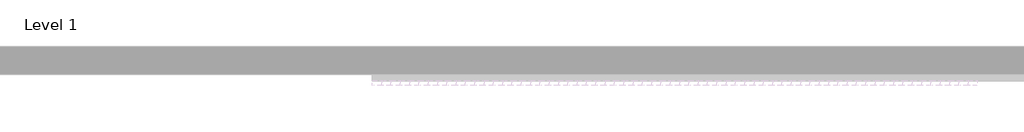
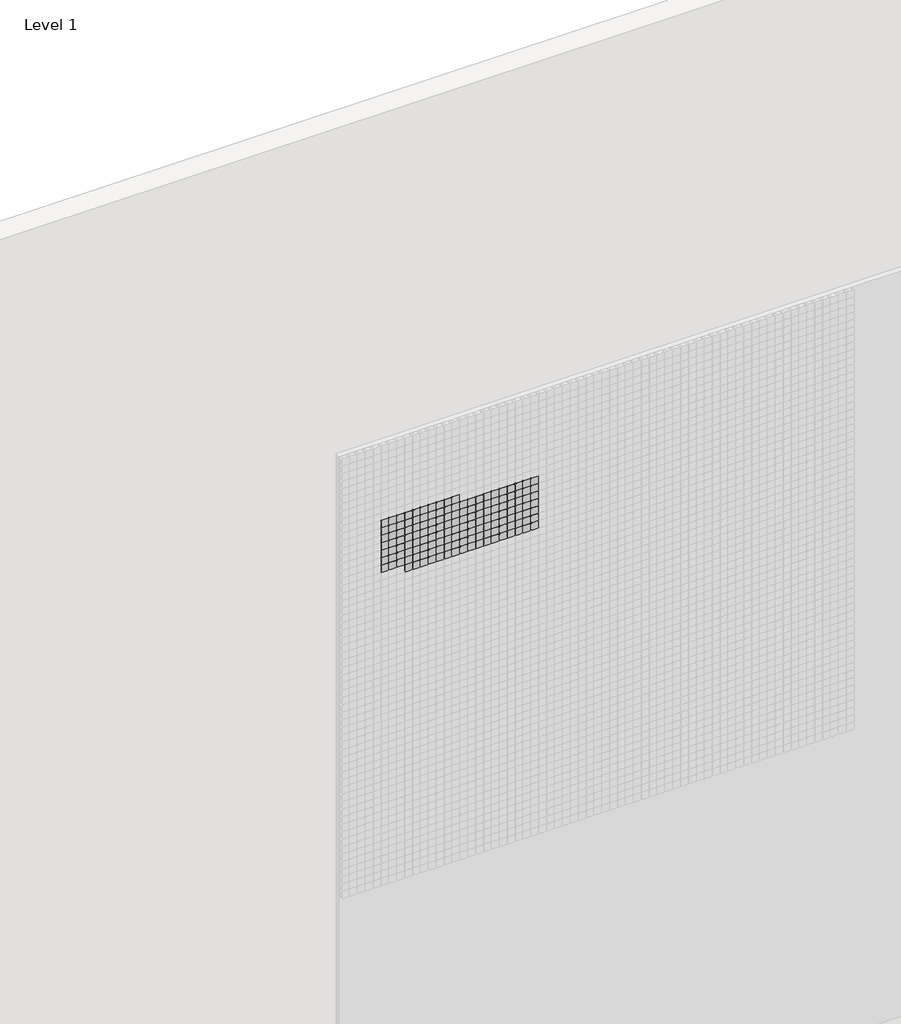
# One storey, part 9 of 71: 147 proxies.
"""IFC4 building model written with IfcOpenShell, lengths in millimetres."""

from ifc_helpers import new_model, si_unit, origin, place, context, project, spatial, transform, mapped, element, save
from components import generic_models_afde289c

model = new_model("IFC4")

# Units and contexts
model_context = context("Model", 3, world=origin())
ifc_project = project(units=[si_unit("LENGTHUNIT", "METRE", prefix="MILLI")], contexts=[model_context])

# Site, building, storey
site = spatial("IfcSite", under=ifc_project)
building = spatial("IfcBuilding", under=site)
storey = spatial("IfcBuildingStorey", under=building, Name="Level 1", Elevation=0.0)

# Proxies
placement = place(None, origin())
generic_models_shape = generic_models_afde289c(model_context)
element("IfcBuildingElementProxy", 1, Name="Pixel_M : Pixel_M", ObjectType="Pixel_M : Pixel_M", at=placement, inside=storey, context=model_context, shape_type="MappedRepresentation", body=[
    mapped(generic_models_shape, transform((5462.4280941, -75.0, 5466.3566215), x_axis=(1.0, 0.0, 0.0), y_axis=(0.0, 0.0, 1.0), z_axis=(0.0, -1.0, 0.0))),
])
element("IfcBuildingElementProxy", 2, Name="Pixel_M : Pixel_M", ObjectType="Pixel_M : Pixel_M", at=placement, inside=storey, context=model_context, shape_type="MappedRepresentation", body=[
    mapped(generic_models_shape, transform((5412.4280941, -75.0, 5466.3566215), x_axis=(1.0, 0.0, 0.0), y_axis=(0.0, 0.0, 1.0), z_axis=(0.0, -1.0, 0.0))),
])
element("IfcBuildingElementProxy", 3, Name="Pixel_M : Pixel_M", ObjectType="Pixel_M : Pixel_M", at=placement, inside=storey, context=model_context, shape_type="MappedRepresentation", body=[
    mapped(generic_models_shape, transform((5362.4280941, -75.0, 5466.3566215), x_axis=(1.0, 0.0, 0.0), y_axis=(0.0, 0.0, 1.0), z_axis=(0.0, -1.0, 0.0))),
])
element("IfcBuildingElementProxy", 4, Name="Pixel_M : Pixel_M", ObjectType="Pixel_M : Pixel_M", at=placement, inside=storey, context=model_context, shape_type="MappedRepresentation", body=[
    mapped(generic_models_shape, transform((5312.4280941, -75.0, 5466.3566215), x_axis=(1.0, 0.0, 0.0), y_axis=(0.0, 0.0, 1.0), z_axis=(0.0, -1.0, 0.0))),
])
element("IfcBuildingElementProxy", 5, Name="Pixel_M : Pixel_M", ObjectType="Pixel_M : Pixel_M", at=placement, inside=storey, context=model_context, shape_type="MappedRepresentation", body=[
    mapped(generic_models_shape, transform((5262.4280941, -75.0, 5466.3566215), x_axis=(1.0, 0.0, 0.0), y_axis=(0.0, 0.0, 1.0), z_axis=(0.0, -1.0, 0.0))),
])
element("IfcBuildingElementProxy", 6, Name="Pixel_M : Pixel_M", ObjectType="Pixel_M : Pixel_M", at=placement, inside=storey, context=model_context, shape_type="MappedRepresentation", body=[
    mapped(generic_models_shape, transform((5212.4280941, -75.0, 5466.3566215), x_axis=(1.0, 0.0, 0.0), y_axis=(0.0, 0.0, 1.0), z_axis=(0.0, -1.0, 0.0))),
])
element("IfcBuildingElementProxy", 7, Name="Pixel_M : Pixel_M", ObjectType="Pixel_M : Pixel_M", at=placement, inside=storey, context=model_context, shape_type="MappedRepresentation", body=[
    mapped(generic_models_shape, transform((5162.4280941, -75.0, 5466.3566215), x_axis=(1.0, 0.0, 0.0), y_axis=(0.0, 0.0, 1.0), z_axis=(0.0, -1.0, 0.0))),
])
element("IfcBuildingElementProxy", 8, Name="Pixel_M : Pixel_M", ObjectType="Pixel_M : Pixel_M", at=placement, inside=storey, context=model_context, shape_type="MappedRepresentation", body=[
    mapped(generic_models_shape, transform((5112.4280941, -75.0, 5466.3566215), x_axis=(1.0, 0.0, 0.0), y_axis=(0.0, 0.0, 1.0), z_axis=(0.0, -1.0, 0.0))),
])
element("IfcBuildingElementProxy", 9, Name="Pixel_M : Pixel_M", ObjectType="Pixel_M : Pixel_M", at=placement, inside=storey, context=model_context, shape_type="MappedRepresentation", body=[
    mapped(generic_models_shape, transform((5062.4280941, -75.0, 5466.3566215), x_axis=(1.0, 0.0, 0.0), y_axis=(0.0, 0.0, 1.0), z_axis=(0.0, -1.0, 0.0))),
])
element("IfcBuildingElementProxy", 10, Name="Pixel_M : Pixel_M", ObjectType="Pixel_M : Pixel_M", at=placement, inside=storey, context=model_context, shape_type="MappedRepresentation", body=[
    mapped(generic_models_shape, transform((5012.4280941, -75.0, 5466.3566215), x_axis=(1.0, 0.0, 0.0), y_axis=(0.0, 0.0, 1.0), z_axis=(0.0, -1.0, 0.0))),
])
element("IfcBuildingElementProxy", 11, Name="Pixel_M : Pixel_M", ObjectType="Pixel_M : Pixel_M", at=placement, inside=storey, context=model_context, shape_type="MappedRepresentation", body=[
    mapped(generic_models_shape, transform((5962.4280941, -75.0, 5416.3566215), x_axis=(1.0, 0.0, 0.0), y_axis=(0.0, 0.0, 1.0), z_axis=(0.0, -1.0, 0.0))),
])
element("IfcBuildingElementProxy", 12, Name="Pixel_M : Pixel_M", ObjectType="Pixel_M : Pixel_M", at=placement, inside=storey, context=model_context, shape_type="MappedRepresentation", body=[
    mapped(generic_models_shape, transform((5912.4280941, -75.0, 5416.3566215), x_axis=(1.0, 0.0, 0.0), y_axis=(0.0, 0.0, 1.0), z_axis=(0.0, -1.0, 0.0))),
])
element("IfcBuildingElementProxy", 13, Name="Pixel_M : Pixel_M", ObjectType="Pixel_M : Pixel_M", at=placement, inside=storey, context=model_context, shape_type="MappedRepresentation", body=[
    mapped(generic_models_shape, transform((5862.4280941, -75.0, 5416.3566215), x_axis=(1.0, 0.0, 0.0), y_axis=(0.0, 0.0, 1.0), z_axis=(0.0, -1.0, 0.0))),
])
element("IfcBuildingElementProxy", 14, Name="Pixel_M : Pixel_M", ObjectType="Pixel_M : Pixel_M", at=placement, inside=storey, context=model_context, shape_type="MappedRepresentation", body=[
    mapped(generic_models_shape, transform((5812.4280941, -75.0, 5416.3566215), x_axis=(1.0, 0.0, 0.0), y_axis=(0.0, 0.0, 1.0), z_axis=(0.0, -1.0, 0.0))),
])
element("IfcBuildingElementProxy", 15, Name="Pixel_M : Pixel_M", ObjectType="Pixel_M : Pixel_M", at=placement, inside=storey, context=model_context, shape_type="MappedRepresentation", body=[
    mapped(generic_models_shape, transform((5762.4280941, -75.0, 5416.3566215), x_axis=(1.0, 0.0, 0.0), y_axis=(0.0, 0.0, 1.0), z_axis=(0.0, -1.0, 0.0))),
])
element("IfcBuildingElementProxy", 16, Name="Pixel_M : Pixel_M", ObjectType="Pixel_M : Pixel_M", at=placement, inside=storey, context=model_context, shape_type="MappedRepresentation", body=[
    mapped(generic_models_shape, transform((5712.4280941, -75.0, 5416.3566215), x_axis=(1.0, 0.0, 0.0), y_axis=(0.0, 0.0, 1.0), z_axis=(0.0, -1.0, 0.0))),
])
element("IfcBuildingElementProxy", 17, Name="Pixel_M : Pixel_M", ObjectType="Pixel_M : Pixel_M", at=placement, inside=storey, context=model_context, shape_type="MappedRepresentation", body=[
    mapped(generic_models_shape, transform((5662.4280941, -75.0, 5416.3566215), x_axis=(1.0, 0.0, 0.0), y_axis=(0.0, 0.0, 1.0), z_axis=(0.0, -1.0, 0.0))),
])
element("IfcBuildingElementProxy", 18, Name="Pixel_M : Pixel_M", ObjectType="Pixel_M : Pixel_M", at=placement, inside=storey, context=model_context, shape_type="MappedRepresentation", body=[
    mapped(generic_models_shape, transform((5612.4280941, -75.0, 5416.3566215), x_axis=(1.0, 0.0, 0.0), y_axis=(0.0, 0.0, 1.0), z_axis=(0.0, -1.0, 0.0))),
])
element("IfcBuildingElementProxy", 19, Name="Pixel_M : Pixel_M", ObjectType="Pixel_M : Pixel_M", at=placement, inside=storey, context=model_context, shape_type="MappedRepresentation", body=[
    mapped(generic_models_shape, transform((5562.4280941, -75.0, 5416.3566215), x_axis=(1.0, 0.0, 0.0), y_axis=(0.0, 0.0, 1.0), z_axis=(0.0, -1.0, 0.0))),
])
element("IfcBuildingElementProxy", 20, Name="Pixel_M : Pixel_M", ObjectType="Pixel_M : Pixel_M", at=placement, inside=storey, context=model_context, shape_type="MappedRepresentation", body=[
    mapped(generic_models_shape, transform((5512.4280941, -75.0, 5416.3566215), x_axis=(1.0, 0.0, 0.0), y_axis=(0.0, 0.0, 1.0), z_axis=(0.0, -1.0, 0.0))),
])
element("IfcBuildingElementProxy", 21, Name="Pixel_M : Pixel_M", ObjectType="Pixel_M : Pixel_M", at=placement, inside=storey, context=model_context, shape_type="MappedRepresentation", body=[
    mapped(generic_models_shape, transform((5462.4280941, -75.0, 5416.3566215), x_axis=(1.0, 0.0, 0.0), y_axis=(0.0, 0.0, 1.0), z_axis=(0.0, -1.0, 0.0))),
])
element("IfcBuildingElementProxy", 22, Name="Pixel_M : Pixel_M", ObjectType="Pixel_M : Pixel_M", at=placement, inside=storey, context=model_context, shape_type="MappedRepresentation", body=[
    mapped(generic_models_shape, transform((5412.4280941, -75.0, 5416.3566215), x_axis=(1.0, 0.0, 0.0), y_axis=(0.0, 0.0, 1.0), z_axis=(0.0, -1.0, 0.0))),
])
element("IfcBuildingElementProxy", 23, Name="Pixel_M : Pixel_M", ObjectType="Pixel_M : Pixel_M", at=placement, inside=storey, context=model_context, shape_type="MappedRepresentation", body=[
    mapped(generic_models_shape, transform((5362.4280941, -75.0, 5416.3566215), x_axis=(1.0, 0.0, 0.0), y_axis=(0.0, 0.0, 1.0), z_axis=(0.0, -1.0, 0.0))),
])
element("IfcBuildingElementProxy", 24, Name="Pixel_M : Pixel_M", ObjectType="Pixel_M : Pixel_M", at=placement, inside=storey, context=model_context, shape_type="MappedRepresentation", body=[
    mapped(generic_models_shape, transform((5312.4280941, -75.0, 5416.3566215), x_axis=(1.0, 0.0, 0.0), y_axis=(0.0, 0.0, 1.0), z_axis=(0.0, -1.0, 0.0))),
])
element("IfcBuildingElementProxy", 25, Name="Pixel_M : Pixel_M", ObjectType="Pixel_M : Pixel_M", at=placement, inside=storey, context=model_context, shape_type="MappedRepresentation", body=[
    mapped(generic_models_shape, transform((5262.4280941, -75.0, 5416.3566215), x_axis=(1.0, 0.0, 0.0), y_axis=(0.0, 0.0, 1.0), z_axis=(0.0, -1.0, 0.0))),
])
element("IfcBuildingElementProxy", 26, Name="Pixel_M : Pixel_M", ObjectType="Pixel_M : Pixel_M", at=placement, inside=storey, context=model_context, shape_type="MappedRepresentation", body=[
    mapped(generic_models_shape, transform((5212.4280941, -75.0, 5416.3566215), x_axis=(1.0, 0.0, 0.0), y_axis=(0.0, 0.0, 1.0), z_axis=(0.0, -1.0, 0.0))),
])
element("IfcBuildingElementProxy", 27, Name="Pixel_M : Pixel_M", ObjectType="Pixel_M : Pixel_M", at=placement, inside=storey, context=model_context, shape_type="MappedRepresentation", body=[
    mapped(generic_models_shape, transform((5162.4280941, -75.0, 5416.3566215), x_axis=(1.0, 0.0, 0.0), y_axis=(0.0, 0.0, 1.0), z_axis=(0.0, -1.0, 0.0))),
])
element("IfcBuildingElementProxy", 28, Name="Pixel_M : Pixel_M", ObjectType="Pixel_M : Pixel_M", at=placement, inside=storey, context=model_context, shape_type="MappedRepresentation", body=[
    mapped(generic_models_shape, transform((5112.4280941, -75.0, 5416.3566215), x_axis=(1.0, 0.0, 0.0), y_axis=(0.0, 0.0, 1.0), z_axis=(0.0, -1.0, 0.0))),
])
element("IfcBuildingElementProxy", 29, Name="Pixel_M : Pixel_M", ObjectType="Pixel_M : Pixel_M", at=placement, inside=storey, context=model_context, shape_type="MappedRepresentation", body=[
    mapped(generic_models_shape, transform((5062.4280941, -75.0, 5416.3566215), x_axis=(1.0, 0.0, 0.0), y_axis=(0.0, 0.0, 1.0), z_axis=(0.0, -1.0, 0.0))),
])
element("IfcBuildingElementProxy", 30, Name="Pixel_M : Pixel_M", ObjectType="Pixel_M : Pixel_M", at=placement, inside=storey, context=model_context, shape_type="MappedRepresentation", body=[
    mapped(generic_models_shape, transform((5012.4280941, -75.0, 5416.3566215), x_axis=(1.0, 0.0, 0.0), y_axis=(0.0, 0.0, 1.0), z_axis=(0.0, -1.0, 0.0))),
])
element("IfcBuildingElementProxy", 31, Name="Pixel_M : Pixel_M", ObjectType="Pixel_M : Pixel_M", at=placement, inside=storey, context=model_context, shape_type="MappedRepresentation", body=[
    mapped(generic_models_shape, transform((5962.4280941, -75.0, 5366.3566215), x_axis=(1.0, 0.0, 0.0), y_axis=(0.0, 0.0, 1.0), z_axis=(0.0, -1.0, 0.0))),
])
element("IfcBuildingElementProxy", 32, Name="Pixel_M : Pixel_M", ObjectType="Pixel_M : Pixel_M", at=placement, inside=storey, context=model_context, shape_type="MappedRepresentation", body=[
    mapped(generic_models_shape, transform((5912.4280941, -75.0, 5366.3566215), x_axis=(1.0, 0.0, 0.0), y_axis=(0.0, 0.0, 1.0), z_axis=(0.0, -1.0, 0.0))),
])
element("IfcBuildingElementProxy", 33, Name="Pixel_M : Pixel_M", ObjectType="Pixel_M : Pixel_M", at=placement, inside=storey, context=model_context, shape_type="MappedRepresentation", body=[
    mapped(generic_models_shape, transform((5862.4280941, -75.0, 5366.3566215), x_axis=(1.0, 0.0, 0.0), y_axis=(0.0, 0.0, 1.0), z_axis=(0.0, -1.0, 0.0))),
])
element("IfcBuildingElementProxy", 34, Name="Pixel_M : Pixel_M", ObjectType="Pixel_M : Pixel_M", at=placement, inside=storey, context=model_context, shape_type="MappedRepresentation", body=[
    mapped(generic_models_shape, transform((5812.4280941, -75.0, 5366.3566215), x_axis=(1.0, 0.0, 0.0), y_axis=(0.0, 0.0, 1.0), z_axis=(0.0, -1.0, 0.0))),
])
element("IfcBuildingElementProxy", 35, Name="Pixel_M : Pixel_M", ObjectType="Pixel_M : Pixel_M", at=placement, inside=storey, context=model_context, shape_type="MappedRepresentation", body=[
    mapped(generic_models_shape, transform((5762.4280941, -75.0, 5366.3566215), x_axis=(1.0, 0.0, 0.0), y_axis=(0.0, 0.0, 1.0), z_axis=(0.0, -1.0, 0.0))),
])
element("IfcBuildingElementProxy", 36, Name="Pixel_M : Pixel_M", ObjectType="Pixel_M : Pixel_M", at=placement, inside=storey, context=model_context, shape_type="MappedRepresentation", body=[
    mapped(generic_models_shape, transform((5712.4280941, -75.0, 5366.3566215), x_axis=(1.0, 0.0, 0.0), y_axis=(0.0, 0.0, 1.0), z_axis=(0.0, -1.0, 0.0))),
])
element("IfcBuildingElementProxy", 37, Name="Pixel_M : Pixel_M", ObjectType="Pixel_M : Pixel_M", at=placement, inside=storey, context=model_context, shape_type="MappedRepresentation", body=[
    mapped(generic_models_shape, transform((5662.4280941, -75.0, 5366.3566215), x_axis=(1.0, 0.0, 0.0), y_axis=(0.0, 0.0, 1.0), z_axis=(0.0, -1.0, 0.0))),
])
element("IfcBuildingElementProxy", 38, Name="Pixel_M : Pixel_M", ObjectType="Pixel_M : Pixel_M", at=placement, inside=storey, context=model_context, shape_type="MappedRepresentation", body=[
    mapped(generic_models_shape, transform((5612.4280941, -75.0, 5366.3566215), x_axis=(1.0, 0.0, 0.0), y_axis=(0.0, 0.0, 1.0), z_axis=(0.0, -1.0, 0.0))),
])
element("IfcBuildingElementProxy", 39, Name="Pixel_M : Pixel_M", ObjectType="Pixel_M : Pixel_M", at=placement, inside=storey, context=model_context, shape_type="MappedRepresentation", body=[
    mapped(generic_models_shape, transform((5562.4280941, -75.0, 5366.3566215), x_axis=(1.0, 0.0, 0.0), y_axis=(0.0, 0.0, 1.0), z_axis=(0.0, -1.0, 0.0))),
])
element("IfcBuildingElementProxy", 40, Name="Pixel_M : Pixel_M", ObjectType="Pixel_M : Pixel_M", at=placement, inside=storey, context=model_context, shape_type="MappedRepresentation", body=[
    mapped(generic_models_shape, transform((5512.4280941, -75.0, 5366.3566215), x_axis=(1.0, 0.0, 0.0), y_axis=(0.0, 0.0, 1.0), z_axis=(0.0, -1.0, 0.0))),
])
element("IfcBuildingElementProxy", 41, Name="Pixel_M : Pixel_M", ObjectType="Pixel_M : Pixel_M", at=placement, inside=storey, context=model_context, shape_type="MappedRepresentation", body=[
    mapped(generic_models_shape, transform((5462.4280941, -75.0, 5366.3566215), x_axis=(1.0, 0.0, 0.0), y_axis=(0.0, 0.0, 1.0), z_axis=(0.0, -1.0, 0.0))),
])
element("IfcBuildingElementProxy", 42, Name="Pixel_M : Pixel_M", ObjectType="Pixel_M : Pixel_M", at=placement, inside=storey, context=model_context, shape_type="MappedRepresentation", body=[
    mapped(generic_models_shape, transform((5412.4280941, -75.0, 5366.3566215), x_axis=(1.0, 0.0, 0.0), y_axis=(0.0, 0.0, 1.0), z_axis=(0.0, -1.0, 0.0))),
])
element("IfcBuildingElementProxy", 43, Name="Pixel_M : Pixel_M", ObjectType="Pixel_M : Pixel_M", at=placement, inside=storey, context=model_context, shape_type="MappedRepresentation", body=[
    mapped(generic_models_shape, transform((5362.4280941, -75.0, 5366.3566215), x_axis=(1.0, 0.0, 0.0), y_axis=(0.0, 0.0, 1.0), z_axis=(0.0, -1.0, 0.0))),
])
element("IfcBuildingElementProxy", 44, Name="Pixel_M : Pixel_M", ObjectType="Pixel_M : Pixel_M", at=placement, inside=storey, context=model_context, shape_type="MappedRepresentation", body=[
    mapped(generic_models_shape, transform((5312.4280941, -75.0, 5366.3566215), x_axis=(1.0, 0.0, 0.0), y_axis=(0.0, 0.0, 1.0), z_axis=(0.0, -1.0, 0.0))),
])
element("IfcBuildingElementProxy", 45, Name="Pixel_M : Pixel_M", ObjectType="Pixel_M : Pixel_M", at=placement, inside=storey, context=model_context, shape_type="MappedRepresentation", body=[
    mapped(generic_models_shape, transform((5262.4280941, -75.0, 5366.3566215), x_axis=(1.0, 0.0, 0.0), y_axis=(0.0, 0.0, 1.0), z_axis=(0.0, -1.0, 0.0))),
])
element("IfcBuildingElementProxy", 46, Name="Pixel_M : Pixel_M", ObjectType="Pixel_M : Pixel_M", at=placement, inside=storey, context=model_context, shape_type="MappedRepresentation", body=[
    mapped(generic_models_shape, transform((5212.4280941, -75.0, 5366.3566215), x_axis=(1.0, 0.0, 0.0), y_axis=(0.0, 0.0, 1.0), z_axis=(0.0, -1.0, 0.0))),
])
element("IfcBuildingElementProxy", 47, Name="Pixel_M : Pixel_M", ObjectType="Pixel_M : Pixel_M", at=placement, inside=storey, context=model_context, shape_type="MappedRepresentation", body=[
    mapped(generic_models_shape, transform((5162.4280941, -75.0, 5366.3566215), x_axis=(1.0, 0.0, 0.0), y_axis=(0.0, 0.0, 1.0), z_axis=(0.0, -1.0, 0.0))),
])
element("IfcBuildingElementProxy", 48, Name="Pixel_M : Pixel_M", ObjectType="Pixel_M : Pixel_M", at=placement, inside=storey, context=model_context, shape_type="MappedRepresentation", body=[
    mapped(generic_models_shape, transform((5112.4280941, -75.0, 5366.3566215), x_axis=(1.0, 0.0, 0.0), y_axis=(0.0, 0.0, 1.0), z_axis=(0.0, -1.0, 0.0))),
])
element("IfcBuildingElementProxy", 49, Name="Pixel_M : Pixel_M", ObjectType="Pixel_M : Pixel_M", at=placement, inside=storey, context=model_context, shape_type="MappedRepresentation", body=[
    mapped(generic_models_shape, transform((5062.4280941, -75.0, 5366.3566215), x_axis=(1.0, 0.0, 0.0), y_axis=(0.0, 0.0, 1.0), z_axis=(0.0, -1.0, 0.0))),
])
element("IfcBuildingElementProxy", 50, Name="Pixel_M : Pixel_M", ObjectType="Pixel_M : Pixel_M", at=placement, inside=storey, context=model_context, shape_type="MappedRepresentation", body=[
    mapped(generic_models_shape, transform((5012.4280941, -75.0, 5366.3566215), x_axis=(1.0, 0.0, 0.0), y_axis=(0.0, 0.0, 1.0), z_axis=(0.0, -1.0, 0.0))),
])
element("IfcBuildingElementProxy", 51, Name="Pixel_M : Pixel_M", ObjectType="Pixel_M : Pixel_M", at=placement, inside=storey, context=model_context, shape_type="MappedRepresentation", body=[
    mapped(generic_models_shape, transform((5962.4280941, -75.0, 5316.3566215), x_axis=(1.0, 0.0, 0.0), y_axis=(0.0, 0.0, 1.0), z_axis=(0.0, -1.0, 0.0))),
])
element("IfcBuildingElementProxy", 52, Name="Pixel_M : Pixel_M", ObjectType="Pixel_M : Pixel_M", at=placement, inside=storey, context=model_context, shape_type="MappedRepresentation", body=[
    mapped(generic_models_shape, transform((5912.4280941, -75.0, 5316.3566215), x_axis=(1.0, 0.0, 0.0), y_axis=(0.0, 0.0, 1.0), z_axis=(0.0, -1.0, 0.0))),
])
element("IfcBuildingElementProxy", 53, Name="Pixel_M : Pixel_M", ObjectType="Pixel_M : Pixel_M", at=placement, inside=storey, context=model_context, shape_type="MappedRepresentation", body=[
    mapped(generic_models_shape, transform((5862.4280941, -75.0, 5316.3566215), x_axis=(1.0, 0.0, 0.0), y_axis=(0.0, 0.0, 1.0), z_axis=(0.0, -1.0, 0.0))),
])
element("IfcBuildingElementProxy", 54, Name="Pixel_M : Pixel_M", ObjectType="Pixel_M : Pixel_M", at=placement, inside=storey, context=model_context, shape_type="MappedRepresentation", body=[
    mapped(generic_models_shape, transform((5812.4280941, -75.0, 5316.3566215), x_axis=(1.0, 0.0, 0.0), y_axis=(0.0, 0.0, 1.0), z_axis=(0.0, -1.0, 0.0))),
])
element("IfcBuildingElementProxy", 55, Name="Pixel_M : Pixel_M", ObjectType="Pixel_M : Pixel_M", at=placement, inside=storey, context=model_context, shape_type="MappedRepresentation", body=[
    mapped(generic_models_shape, transform((5762.4280941, -75.0, 5316.3566215), x_axis=(1.0, 0.0, 0.0), y_axis=(0.0, 0.0, 1.0), z_axis=(0.0, -1.0, 0.0))),
])
element("IfcBuildingElementProxy", 56, Name="Pixel_M : Pixel_M", ObjectType="Pixel_M : Pixel_M", at=placement, inside=storey, context=model_context, shape_type="MappedRepresentation", body=[
    mapped(generic_models_shape, transform((5712.4280941, -75.0, 5316.3566215), x_axis=(1.0, 0.0, 0.0), y_axis=(0.0, 0.0, 1.0), z_axis=(0.0, -1.0, 0.0))),
])
element("IfcBuildingElementProxy", 57, Name="Pixel_M : Pixel_M", ObjectType="Pixel_M : Pixel_M", at=placement, inside=storey, context=model_context, shape_type="MappedRepresentation", body=[
    mapped(generic_models_shape, transform((5662.4280941, -75.0, 5316.3566215), x_axis=(1.0, 0.0, 0.0), y_axis=(0.0, 0.0, 1.0), z_axis=(0.0, -1.0, 0.0))),
])
element("IfcBuildingElementProxy", 58, Name="Pixel_M : Pixel_M", ObjectType="Pixel_M : Pixel_M", at=placement, inside=storey, context=model_context, shape_type="MappedRepresentation", body=[
    mapped(generic_models_shape, transform((5612.4280941, -75.0, 5316.3566215), x_axis=(1.0, 0.0, 0.0), y_axis=(0.0, 0.0, 1.0), z_axis=(0.0, -1.0, 0.0))),
])
element("IfcBuildingElementProxy", 59, Name="Pixel_M : Pixel_M", ObjectType="Pixel_M : Pixel_M", at=placement, inside=storey, context=model_context, shape_type="MappedRepresentation", body=[
    mapped(generic_models_shape, transform((5562.4280941, -75.0, 5316.3566215), x_axis=(1.0, 0.0, 0.0), y_axis=(0.0, 0.0, 1.0), z_axis=(0.0, -1.0, 0.0))),
])
element("IfcBuildingElementProxy", 60, Name="Pixel_M : Pixel_M", ObjectType="Pixel_M : Pixel_M", at=placement, inside=storey, context=model_context, shape_type="MappedRepresentation", body=[
    mapped(generic_models_shape, transform((5512.4280941, -75.0, 5316.3566215), x_axis=(1.0, 0.0, 0.0), y_axis=(0.0, 0.0, 1.0), z_axis=(0.0, -1.0, 0.0))),
])
element("IfcBuildingElementProxy", 61, Name="Pixel_M : Pixel_M", ObjectType="Pixel_M : Pixel_M", at=placement, inside=storey, context=model_context, shape_type="MappedRepresentation", body=[
    mapped(generic_models_shape, transform((5462.4280941, -75.0, 5316.3566215), x_axis=(1.0, 0.0, 0.0), y_axis=(0.0, 0.0, 1.0), z_axis=(0.0, -1.0, 0.0))),
])
element("IfcBuildingElementProxy", 62, Name="Pixel_M : Pixel_M", ObjectType="Pixel_M : Pixel_M", at=placement, inside=storey, context=model_context, shape_type="MappedRepresentation", body=[
    mapped(generic_models_shape, transform((5412.4280941, -75.0, 5316.3566215), x_axis=(1.0, 0.0, 0.0), y_axis=(0.0, 0.0, 1.0), z_axis=(0.0, -1.0, 0.0))),
])
element("IfcBuildingElementProxy", 63, Name="Pixel_M : Pixel_M", ObjectType="Pixel_M : Pixel_M", at=placement, inside=storey, context=model_context, shape_type="MappedRepresentation", body=[
    mapped(generic_models_shape, transform((5362.4280941, -75.0, 5316.3566215), x_axis=(1.0, 0.0, 0.0), y_axis=(0.0, 0.0, 1.0), z_axis=(0.0, -1.0, 0.0))),
])
element("IfcBuildingElementProxy", 64, Name="Pixel_M : Pixel_M", ObjectType="Pixel_M : Pixel_M", at=placement, inside=storey, context=model_context, shape_type="MappedRepresentation", body=[
    mapped(generic_models_shape, transform((5312.4280941, -75.0, 5316.3566215), x_axis=(1.0, 0.0, 0.0), y_axis=(0.0, 0.0, 1.0), z_axis=(0.0, -1.0, 0.0))),
])
element("IfcBuildingElementProxy", 65, Name="Pixel_M : Pixel_M", ObjectType="Pixel_M : Pixel_M", at=placement, inside=storey, context=model_context, shape_type="MappedRepresentation", body=[
    mapped(generic_models_shape, transform((5262.4280941, -75.0, 5316.3566215), x_axis=(1.0, 0.0, 0.0), y_axis=(0.0, 0.0, 1.0), z_axis=(0.0, -1.0, 0.0))),
])
element("IfcBuildingElementProxy", 66, Name="Pixel_M : Pixel_M", ObjectType="Pixel_M : Pixel_M", at=placement, inside=storey, context=model_context, shape_type="MappedRepresentation", body=[
    mapped(generic_models_shape, transform((5212.4280941, -75.0, 5316.3566215), x_axis=(1.0, 0.0, 0.0), y_axis=(0.0, 0.0, 1.0), z_axis=(0.0, -1.0, 0.0))),
])
element("IfcBuildingElementProxy", 67, Name="Pixel_M : Pixel_M", ObjectType="Pixel_M : Pixel_M", at=placement, inside=storey, context=model_context, shape_type="MappedRepresentation", body=[
    mapped(generic_models_shape, transform((5162.4280941, -75.0, 5316.3566215), x_axis=(1.0, 0.0, 0.0), y_axis=(0.0, 0.0, 1.0), z_axis=(0.0, -1.0, 0.0))),
])
element("IfcBuildingElementProxy", 68, Name="Pixel_M : Pixel_M", ObjectType="Pixel_M : Pixel_M", at=placement, inside=storey, context=model_context, shape_type="MappedRepresentation", body=[
    mapped(generic_models_shape, transform((5112.4280941, -75.0, 5316.3566215), x_axis=(1.0, 0.0, 0.0), y_axis=(0.0, 0.0, 1.0), z_axis=(0.0, -1.0, 0.0))),
])
element("IfcBuildingElementProxy", 69, Name="Pixel_M : Pixel_M", ObjectType="Pixel_M : Pixel_M", at=placement, inside=storey, context=model_context, shape_type="MappedRepresentation", body=[
    mapped(generic_models_shape, transform((5062.4280941, -75.0, 5316.3566215), x_axis=(1.0, 0.0, 0.0), y_axis=(0.0, 0.0, 1.0), z_axis=(0.0, -1.0, 0.0))),
])
element("IfcBuildingElementProxy", 70, Name="Pixel_M : Pixel_M", ObjectType="Pixel_M : Pixel_M", at=placement, inside=storey, context=model_context, shape_type="MappedRepresentation", body=[
    mapped(generic_models_shape, transform((5012.4280941, -75.0, 5316.3566215), x_axis=(1.0, 0.0, 0.0), y_axis=(0.0, 0.0, 1.0), z_axis=(0.0, -1.0, 0.0))),
])
element("IfcBuildingElementProxy", 71, Name="Pixel_M : Pixel_M", ObjectType="Pixel_M : Pixel_M", at=placement, inside=storey, context=model_context, shape_type="MappedRepresentation", body=[
    mapped(generic_models_shape, transform((5962.4280941, -75.0, 5266.3566215), x_axis=(1.0, 0.0, 0.0), y_axis=(0.0, 0.0, 1.0), z_axis=(0.0, -1.0, 0.0))),
])
element("IfcBuildingElementProxy", 72, Name="Pixel_M : Pixel_M", ObjectType="Pixel_M : Pixel_M", at=placement, inside=storey, context=model_context, shape_type="MappedRepresentation", body=[
    mapped(generic_models_shape, transform((5912.4280941, -75.0, 5266.3566215), x_axis=(1.0, 0.0, 0.0), y_axis=(0.0, 0.0, 1.0), z_axis=(0.0, -1.0, 0.0))),
])
element("IfcBuildingElementProxy", 73, Name="Pixel_M : Pixel_M", ObjectType="Pixel_M : Pixel_M", at=placement, inside=storey, context=model_context, shape_type="MappedRepresentation", body=[
    mapped(generic_models_shape, transform((5862.4280941, -75.0, 5266.3566215), x_axis=(1.0, 0.0, 0.0), y_axis=(0.0, 0.0, 1.0), z_axis=(0.0, -1.0, 0.0))),
])
element("IfcBuildingElementProxy", 74, Name="Pixel_M : Pixel_M", ObjectType="Pixel_M : Pixel_M", at=placement, inside=storey, context=model_context, shape_type="MappedRepresentation", body=[
    mapped(generic_models_shape, transform((5812.4280941, -75.0, 5266.3566215), x_axis=(1.0, 0.0, 0.0), y_axis=(0.0, 0.0, 1.0), z_axis=(0.0, -1.0, 0.0))),
])
element("IfcBuildingElementProxy", 75, Name="Pixel_M : Pixel_M", ObjectType="Pixel_M : Pixel_M", at=placement, inside=storey, context=model_context, shape_type="MappedRepresentation", body=[
    mapped(generic_models_shape, transform((5762.4280941, -75.0, 5266.3566215), x_axis=(1.0, 0.0, 0.0), y_axis=(0.0, 0.0, 1.0), z_axis=(0.0, -1.0, 0.0))),
])
element("IfcBuildingElementProxy", 76, Name="Pixel_M : Pixel_M", ObjectType="Pixel_M : Pixel_M", at=placement, inside=storey, context=model_context, shape_type="MappedRepresentation", body=[
    mapped(generic_models_shape, transform((5712.4280941, -75.0, 5266.3566215), x_axis=(1.0, 0.0, 0.0), y_axis=(0.0, 0.0, 1.0), z_axis=(0.0, -1.0, 0.0))),
])
element("IfcBuildingElementProxy", 77, Name="Pixel_M : Pixel_M", ObjectType="Pixel_M : Pixel_M", at=placement, inside=storey, context=model_context, shape_type="MappedRepresentation", body=[
    mapped(generic_models_shape, transform((5662.4280941, -75.0, 5266.3566215), x_axis=(1.0, 0.0, 0.0), y_axis=(0.0, 0.0, 1.0), z_axis=(0.0, -1.0, 0.0))),
])
element("IfcBuildingElementProxy", 78, Name="Pixel_M : Pixel_M", ObjectType="Pixel_M : Pixel_M", at=placement, inside=storey, context=model_context, shape_type="MappedRepresentation", body=[
    mapped(generic_models_shape, transform((5612.4280941, -75.0, 5266.3566215), x_axis=(1.0, 0.0, 0.0), y_axis=(0.0, 0.0, 1.0), z_axis=(0.0, -1.0, 0.0))),
])
element("IfcBuildingElementProxy", 79, Name="Pixel_M : Pixel_M", ObjectType="Pixel_M : Pixel_M", at=placement, inside=storey, context=model_context, shape_type="MappedRepresentation", body=[
    mapped(generic_models_shape, transform((5562.4280941, -75.0, 5266.3566215), x_axis=(1.0, 0.0, 0.0), y_axis=(0.0, 0.0, 1.0), z_axis=(0.0, -1.0, 0.0))),
])
element("IfcBuildingElementProxy", 80, Name="Pixel_M : Pixel_M", ObjectType="Pixel_M : Pixel_M", at=placement, inside=storey, context=model_context, shape_type="MappedRepresentation", body=[
    mapped(generic_models_shape, transform((5512.4280941, -75.0, 5266.3566215), x_axis=(1.0, 0.0, 0.0), y_axis=(0.0, 0.0, 1.0), z_axis=(0.0, -1.0, 0.0))),
])
element("IfcBuildingElementProxy", 81, Name="Pixel_M : Pixel_M", ObjectType="Pixel_M : Pixel_M", at=placement, inside=storey, context=model_context, shape_type="MappedRepresentation", body=[
    mapped(generic_models_shape, transform((5462.4280941, -75.0, 5266.3566215), x_axis=(1.0, 0.0, 0.0), y_axis=(0.0, 0.0, 1.0), z_axis=(0.0, -1.0, 0.0))),
])
element("IfcBuildingElementProxy", 82, Name="Pixel_M : Pixel_M", ObjectType="Pixel_M : Pixel_M", at=placement, inside=storey, context=model_context, shape_type="MappedRepresentation", body=[
    mapped(generic_models_shape, transform((5412.4280941, -75.0, 5266.3566215), x_axis=(1.0, 0.0, 0.0), y_axis=(0.0, 0.0, 1.0), z_axis=(0.0, -1.0, 0.0))),
])
element("IfcBuildingElementProxy", 83, Name="Pixel_M : Pixel_M", ObjectType="Pixel_M : Pixel_M", at=placement, inside=storey, context=model_context, shape_type="MappedRepresentation", body=[
    mapped(generic_models_shape, transform((5362.4280941, -75.0, 5266.3566215), x_axis=(1.0, 0.0, 0.0), y_axis=(0.0, 0.0, 1.0), z_axis=(0.0, -1.0, 0.0))),
])
element("IfcBuildingElementProxy", 84, Name="Pixel_M : Pixel_M", ObjectType="Pixel_M : Pixel_M", at=placement, inside=storey, context=model_context, shape_type="MappedRepresentation", body=[
    mapped(generic_models_shape, transform((5312.4280941, -75.0, 5266.3566215), x_axis=(1.0, 0.0, 0.0), y_axis=(0.0, 0.0, 1.0), z_axis=(0.0, -1.0, 0.0))),
])
element("IfcBuildingElementProxy", 85, Name="Pixel_M : Pixel_M", ObjectType="Pixel_M : Pixel_M", at=placement, inside=storey, context=model_context, shape_type="MappedRepresentation", body=[
    mapped(generic_models_shape, transform((5262.4280941, -75.0, 5266.3566215), x_axis=(1.0, 0.0, 0.0), y_axis=(0.0, 0.0, 1.0), z_axis=(0.0, -1.0, 0.0))),
])
element("IfcBuildingElementProxy", 86, Name="Pixel_M : Pixel_M", ObjectType="Pixel_M : Pixel_M", at=placement, inside=storey, context=model_context, shape_type="MappedRepresentation", body=[
    mapped(generic_models_shape, transform((5212.4280941, -75.0, 5266.3566215), x_axis=(1.0, 0.0, 0.0), y_axis=(0.0, 0.0, 1.0), z_axis=(0.0, -1.0, 0.0))),
])
element("IfcBuildingElementProxy", 87, Name="Pixel_M : Pixel_M", ObjectType="Pixel_M : Pixel_M", at=placement, inside=storey, context=model_context, shape_type="MappedRepresentation", body=[
    mapped(generic_models_shape, transform((5162.4280941, -75.0, 5266.3566215), x_axis=(1.0, 0.0, 0.0), y_axis=(0.0, 0.0, 1.0), z_axis=(0.0, -1.0, 0.0))),
])
element("IfcBuildingElementProxy", 88, Name="Pixel_M : Pixel_M", ObjectType="Pixel_M : Pixel_M", at=placement, inside=storey, context=model_context, shape_type="MappedRepresentation", body=[
    mapped(generic_models_shape, transform((5112.4280941, -75.0, 5266.3566215), x_axis=(1.0, 0.0, 0.0), y_axis=(0.0, 0.0, 1.0), z_axis=(0.0, -1.0, 0.0))),
])
element("IfcBuildingElementProxy", 89, Name="Pixel_M : Pixel_M", ObjectType="Pixel_M : Pixel_M", at=placement, inside=storey, context=model_context, shape_type="MappedRepresentation", body=[
    mapped(generic_models_shape, transform((5062.4280941, -75.0, 5266.3566215), x_axis=(1.0, 0.0, 0.0), y_axis=(0.0, 0.0, 1.0), z_axis=(0.0, -1.0, 0.0))),
])
element("IfcBuildingElementProxy", 90, Name="Pixel_M : Pixel_M", ObjectType="Pixel_M : Pixel_M", at=placement, inside=storey, context=model_context, shape_type="MappedRepresentation", body=[
    mapped(generic_models_shape, transform((5012.4280941, -75.0, 5266.3566215), x_axis=(1.0, 0.0, 0.0), y_axis=(0.0, 0.0, 1.0), z_axis=(0.0, -1.0, 0.0))),
])
element("IfcBuildingElementProxy", 91, Name="Pixel_M : Pixel_M", ObjectType="Pixel_M : Pixel_M", at=placement, inside=storey, context=model_context, shape_type="MappedRepresentation", body=[
    mapped(generic_models_shape, transform((5962.4280941, -75.0, 5216.3566215), x_axis=(1.0, 0.0, 0.0), y_axis=(0.0, 0.0, 1.0), z_axis=(0.0, -1.0, 0.0))),
])
element("IfcBuildingElementProxy", 92, Name="Pixel_M : Pixel_M", ObjectType="Pixel_M : Pixel_M", at=placement, inside=storey, context=model_context, shape_type="MappedRepresentation", body=[
    mapped(generic_models_shape, transform((5912.4280941, -75.0, 5216.3566215), x_axis=(1.0, 0.0, 0.0), y_axis=(0.0, 0.0, 1.0), z_axis=(0.0, -1.0, 0.0))),
])
element("IfcBuildingElementProxy", 93, Name="Pixel_M : Pixel_M", ObjectType="Pixel_M : Pixel_M", at=placement, inside=storey, context=model_context, shape_type="MappedRepresentation", body=[
    mapped(generic_models_shape, transform((5862.4280941, -75.0, 5216.3566215), x_axis=(1.0, 0.0, 0.0), y_axis=(0.0, 0.0, 1.0), z_axis=(0.0, -1.0, 0.0))),
])
element("IfcBuildingElementProxy", 94, Name="Pixel_M : Pixel_M", ObjectType="Pixel_M : Pixel_M", at=placement, inside=storey, context=model_context, shape_type="MappedRepresentation", body=[
    mapped(generic_models_shape, transform((5812.4280941, -75.0, 5216.3566215), x_axis=(1.0, 0.0, 0.0), y_axis=(0.0, 0.0, 1.0), z_axis=(0.0, -1.0, 0.0))),
])
element("IfcBuildingElementProxy", 95, Name="Pixel_M : Pixel_M", ObjectType="Pixel_M : Pixel_M", at=placement, inside=storey, context=model_context, shape_type="MappedRepresentation", body=[
    mapped(generic_models_shape, transform((5762.4280941, -75.0, 5216.3566215), x_axis=(1.0, 0.0, 0.0), y_axis=(0.0, 0.0, 1.0), z_axis=(0.0, -1.0, 0.0))),
])
element("IfcBuildingElementProxy", 96, Name="Pixel_M : Pixel_M", ObjectType="Pixel_M : Pixel_M", at=placement, inside=storey, context=model_context, shape_type="MappedRepresentation", body=[
    mapped(generic_models_shape, transform((5712.4280941, -75.0, 5216.3566215), x_axis=(1.0, 0.0, 0.0), y_axis=(0.0, 0.0, 1.0), z_axis=(0.0, -1.0, 0.0))),
])
element("IfcBuildingElementProxy", 97, Name="Pixel_M : Pixel_M", ObjectType="Pixel_M : Pixel_M", at=placement, inside=storey, context=model_context, shape_type="MappedRepresentation", body=[
    mapped(generic_models_shape, transform((5662.4280941, -75.0, 5216.3566215), x_axis=(1.0, 0.0, 0.0), y_axis=(0.0, 0.0, 1.0), z_axis=(0.0, -1.0, 0.0))),
])
element("IfcBuildingElementProxy", 98, Name="Pixel_M : Pixel_M", ObjectType="Pixel_M : Pixel_M", at=placement, inside=storey, context=model_context, shape_type="MappedRepresentation", body=[
    mapped(generic_models_shape, transform((5612.4280941, -75.0, 5216.3566215), x_axis=(1.0, 0.0, 0.0), y_axis=(0.0, 0.0, 1.0), z_axis=(0.0, -1.0, 0.0))),
])
element("IfcBuildingElementProxy", 99, Name="Pixel_M : Pixel_M", ObjectType="Pixel_M : Pixel_M", at=placement, inside=storey, context=model_context, shape_type="MappedRepresentation", body=[
    mapped(generic_models_shape, transform((5562.4280941, -75.0, 5216.3566215), x_axis=(1.0, 0.0, 0.0), y_axis=(0.0, 0.0, 1.0), z_axis=(0.0, -1.0, 0.0))),
])
element("IfcBuildingElementProxy", 100, Name="Pixel_M : Pixel_M", ObjectType="Pixel_M : Pixel_M", at=placement, inside=storey, context=model_context, shape_type="MappedRepresentation", body=[
    mapped(generic_models_shape, transform((5512.4280941, -75.0, 5216.3566215), x_axis=(1.0, 0.0, 0.0), y_axis=(0.0, 0.0, 1.0), z_axis=(0.0, -1.0, 0.0))),
])
element("IfcBuildingElementProxy", 101, Name="Pixel_M : Pixel_M", ObjectType="Pixel_M : Pixel_M", at=placement, inside=storey, context=model_context, shape_type="MappedRepresentation", body=[
    mapped(generic_models_shape, transform((5462.4280941, -75.0, 5216.3566215), x_axis=(1.0, 0.0, 0.0), y_axis=(0.0, 0.0, 1.0), z_axis=(0.0, -1.0, 0.0))),
])
element("IfcBuildingElementProxy", 102, Name="Pixel_M : Pixel_M", ObjectType="Pixel_M : Pixel_M", at=placement, inside=storey, context=model_context, shape_type="MappedRepresentation", body=[
    mapped(generic_models_shape, transform((5412.4280941, -75.0, 5216.3566215), x_axis=(1.0, 0.0, 0.0), y_axis=(0.0, 0.0, 1.0), z_axis=(0.0, -1.0, 0.0))),
])
element("IfcBuildingElementProxy", 103, Name="Pixel_M : Pixel_M", ObjectType="Pixel_M : Pixel_M", at=placement, inside=storey, context=model_context, shape_type="MappedRepresentation", body=[
    mapped(generic_models_shape, transform((5362.4280941, -75.0, 5216.3566215), x_axis=(1.0, 0.0, 0.0), y_axis=(0.0, 0.0, 1.0), z_axis=(0.0, -1.0, 0.0))),
])
element("IfcBuildingElementProxy", 104, Name="Pixel_M : Pixel_M", ObjectType="Pixel_M : Pixel_M", at=placement, inside=storey, context=model_context, shape_type="MappedRepresentation", body=[
    mapped(generic_models_shape, transform((5312.4280941, -75.0, 5216.3566215), x_axis=(1.0, 0.0, 0.0), y_axis=(0.0, 0.0, 1.0), z_axis=(0.0, -1.0, 0.0))),
])
element("IfcBuildingElementProxy", 105, Name="Pixel_M : Pixel_M", ObjectType="Pixel_M : Pixel_M", at=placement, inside=storey, context=model_context, shape_type="MappedRepresentation", body=[
    mapped(generic_models_shape, transform((5262.4280941, -75.0, 5216.3566215), x_axis=(1.0, 0.0, 0.0), y_axis=(0.0, 0.0, 1.0), z_axis=(0.0, -1.0, 0.0))),
])
element("IfcBuildingElementProxy", 106, Name="Pixel_M : Pixel_M", ObjectType="Pixel_M : Pixel_M", at=placement, inside=storey, context=model_context, shape_type="MappedRepresentation", body=[
    mapped(generic_models_shape, transform((5212.4280941, -75.0, 5216.3566215), x_axis=(1.0, 0.0, 0.0), y_axis=(0.0, 0.0, 1.0), z_axis=(0.0, -1.0, 0.0))),
])
element("IfcBuildingElementProxy", 107, Name="Pixel_M : Pixel_M", ObjectType="Pixel_M : Pixel_M", at=placement, inside=storey, context=model_context, shape_type="MappedRepresentation", body=[
    mapped(generic_models_shape, transform((5162.4280941, -75.0, 5216.3566215), x_axis=(1.0, 0.0, 0.0), y_axis=(0.0, 0.0, 1.0), z_axis=(0.0, -1.0, 0.0))),
])
element("IfcBuildingElementProxy", 108, Name="Pixel_M : Pixel_M", ObjectType="Pixel_M : Pixel_M", at=placement, inside=storey, context=model_context, shape_type="MappedRepresentation", body=[
    mapped(generic_models_shape, transform((5112.4280941, -75.0, 5216.3566215), x_axis=(1.0, 0.0, 0.0), y_axis=(0.0, 0.0, 1.0), z_axis=(0.0, -1.0, 0.0))),
])
element("IfcBuildingElementProxy", 109, Name="Pixel_M : Pixel_M", ObjectType="Pixel_M : Pixel_M", at=placement, inside=storey, context=model_context, shape_type="MappedRepresentation", body=[
    mapped(generic_models_shape, transform((5062.4280941, -75.0, 5216.3566215), x_axis=(1.0, 0.0, 0.0), y_axis=(0.0, 0.0, 1.0), z_axis=(0.0, -1.0, 0.0))),
])
element("IfcBuildingElementProxy", 110, Name="Pixel_M : Pixel_M", ObjectType="Pixel_M : Pixel_M", at=placement, inside=storey, context=model_context, shape_type="MappedRepresentation", body=[
    mapped(generic_models_shape, transform((5012.4280941, -75.0, 5216.3566215), x_axis=(1.0, 0.0, 0.0), y_axis=(0.0, 0.0, 1.0), z_axis=(0.0, -1.0, 0.0))),
])
element("IfcBuildingElementProxy", 111, Name="Pixel_M : Pixel_M", ObjectType="Pixel_M : Pixel_M", at=placement, inside=storey, context=model_context, shape_type="MappedRepresentation", body=[
    mapped(generic_models_shape, transform((5962.4280941, -75.0, 5166.3566215), x_axis=(1.0, 0.0, 0.0), y_axis=(0.0, 0.0, 1.0), z_axis=(0.0, -1.0, 0.0))),
])
element("IfcBuildingElementProxy", 112, Name="Pixel_M : Pixel_M", ObjectType="Pixel_M : Pixel_M", at=placement, inside=storey, context=model_context, shape_type="MappedRepresentation", body=[
    mapped(generic_models_shape, transform((5912.4280941, -75.0, 5166.3566215), x_axis=(1.0, 0.0, 0.0), y_axis=(0.0, 0.0, 1.0), z_axis=(0.0, -1.0, 0.0))),
])
element("IfcBuildingElementProxy", 113, Name="Pixel_M : Pixel_M", ObjectType="Pixel_M : Pixel_M", at=placement, inside=storey, context=model_context, shape_type="MappedRepresentation", body=[
    mapped(generic_models_shape, transform((5862.4280941, -75.0, 5166.3566215), x_axis=(1.0, 0.0, 0.0), y_axis=(0.0, 0.0, 1.0), z_axis=(0.0, -1.0, 0.0))),
])
element("IfcBuildingElementProxy", 114, Name="Pixel_M : Pixel_M", ObjectType="Pixel_M : Pixel_M", at=placement, inside=storey, context=model_context, shape_type="MappedRepresentation", body=[
    mapped(generic_models_shape, transform((5812.4280941, -75.0, 5166.3566215), x_axis=(1.0, 0.0, 0.0), y_axis=(0.0, 0.0, 1.0), z_axis=(0.0, -1.0, 0.0))),
])
element("IfcBuildingElementProxy", 115, Name="Pixel_M : Pixel_M", ObjectType="Pixel_M : Pixel_M", at=placement, inside=storey, context=model_context, shape_type="MappedRepresentation", body=[
    mapped(generic_models_shape, transform((5762.4280941, -75.0, 5166.3566215), x_axis=(1.0, 0.0, 0.0), y_axis=(0.0, 0.0, 1.0), z_axis=(0.0, -1.0, 0.0))),
])
element("IfcBuildingElementProxy", 116, Name="Pixel_M : Pixel_M", ObjectType="Pixel_M : Pixel_M", at=placement, inside=storey, context=model_context, shape_type="MappedRepresentation", body=[
    mapped(generic_models_shape, transform((5712.4280941, -75.0, 5166.3566215), x_axis=(1.0, 0.0, 0.0), y_axis=(0.0, 0.0, 1.0), z_axis=(0.0, -1.0, 0.0))),
])
element("IfcBuildingElementProxy", 117, Name="Pixel_M : Pixel_M", ObjectType="Pixel_M : Pixel_M", at=placement, inside=storey, context=model_context, shape_type="MappedRepresentation", body=[
    mapped(generic_models_shape, transform((5662.4280941, -75.0, 5166.3566215), x_axis=(1.0, 0.0, 0.0), y_axis=(0.0, 0.0, 1.0), z_axis=(0.0, -1.0, 0.0))),
])
element("IfcBuildingElementProxy", 118, Name="Pixel_M : Pixel_M", ObjectType="Pixel_M : Pixel_M", at=placement, inside=storey, context=model_context, shape_type="MappedRepresentation", body=[
    mapped(generic_models_shape, transform((5612.4280941, -75.0, 5166.3566215), x_axis=(1.0, 0.0, 0.0), y_axis=(0.0, 0.0, 1.0), z_axis=(0.0, -1.0, 0.0))),
])
element("IfcBuildingElementProxy", 119, Name="Pixel_M : Pixel_M", ObjectType="Pixel_M : Pixel_M", at=placement, inside=storey, context=model_context, shape_type="MappedRepresentation", body=[
    mapped(generic_models_shape, transform((5562.4280941, -75.0, 5166.3566215), x_axis=(1.0, 0.0, 0.0), y_axis=(0.0, 0.0, 1.0), z_axis=(0.0, -1.0, 0.0))),
])
element("IfcBuildingElementProxy", 120, Name="Pixel_M : Pixel_M", ObjectType="Pixel_M : Pixel_M", at=placement, inside=storey, context=model_context, shape_type="MappedRepresentation", body=[
    mapped(generic_models_shape, transform((5512.4280941, -75.0, 5166.3566215), x_axis=(1.0, 0.0, 0.0), y_axis=(0.0, 0.0, 1.0), z_axis=(0.0, -1.0, 0.0))),
])
element("IfcBuildingElementProxy", 121, Name="Pixel_M : Pixel_M", ObjectType="Pixel_M : Pixel_M", at=placement, inside=storey, context=model_context, shape_type="MappedRepresentation", body=[
    mapped(generic_models_shape, transform((5462.4280941, -75.0, 5166.3566215), x_axis=(1.0, 0.0, 0.0), y_axis=(0.0, 0.0, 1.0), z_axis=(0.0, -1.0, 0.0))),
])
element("IfcBuildingElementProxy", 122, Name="Pixel_M : Pixel_M", ObjectType="Pixel_M : Pixel_M", at=placement, inside=storey, context=model_context, shape_type="MappedRepresentation", body=[
    mapped(generic_models_shape, transform((5412.4280941, -75.0, 5166.3566215), x_axis=(1.0, 0.0, 0.0), y_axis=(0.0, 0.0, 1.0), z_axis=(0.0, -1.0, 0.0))),
])
element("IfcBuildingElementProxy", 123, Name="Pixel_M : Pixel_M", ObjectType="Pixel_M : Pixel_M", at=placement, inside=storey, context=model_context, shape_type="MappedRepresentation", body=[
    mapped(generic_models_shape, transform((5362.4280941, -75.0, 5166.3566215), x_axis=(1.0, 0.0, 0.0), y_axis=(0.0, 0.0, 1.0), z_axis=(0.0, -1.0, 0.0))),
])
element("IfcBuildingElementProxy", 124, Name="Pixel_M : Pixel_M", ObjectType="Pixel_M : Pixel_M", at=placement, inside=storey, context=model_context, shape_type="MappedRepresentation", body=[
    mapped(generic_models_shape, transform((5312.4280941, -75.0, 5166.3566215), x_axis=(1.0, 0.0, 0.0), y_axis=(0.0, 0.0, 1.0), z_axis=(0.0, -1.0, 0.0))),
])
element("IfcBuildingElementProxy", 125, Name="Pixel_M : Pixel_M", ObjectType="Pixel_M : Pixel_M", at=placement, inside=storey, context=model_context, shape_type="MappedRepresentation", body=[
    mapped(generic_models_shape, transform((5262.4280941, -75.0, 5166.3566215), x_axis=(1.0, 0.0, 0.0), y_axis=(0.0, 0.0, 1.0), z_axis=(0.0, -1.0, 0.0))),
])
element("IfcBuildingElementProxy", 126, Name="Pixel_M : Pixel_M", ObjectType="Pixel_M : Pixel_M", at=placement, inside=storey, context=model_context, shape_type="MappedRepresentation", body=[
    mapped(generic_models_shape, transform((5212.4280941, -75.0, 5166.3566215), x_axis=(1.0, 0.0, 0.0), y_axis=(0.0, 0.0, 1.0), z_axis=(0.0, -1.0, 0.0))),
])
element("IfcBuildingElementProxy", 127, Name="Pixel_M : Pixel_M", ObjectType="Pixel_M : Pixel_M", at=placement, inside=storey, context=model_context, shape_type="MappedRepresentation", body=[
    mapped(generic_models_shape, transform((5162.4280941, -75.0, 5166.3566215), x_axis=(1.0, 0.0, 0.0), y_axis=(0.0, 0.0, 1.0), z_axis=(0.0, -1.0, 0.0))),
])
element("IfcBuildingElementProxy", 128, Name="Pixel_M : Pixel_M", ObjectType="Pixel_M : Pixel_M", at=placement, inside=storey, context=model_context, shape_type="MappedRepresentation", body=[
    mapped(generic_models_shape, transform((5112.4280941, -75.0, 5166.3566215), x_axis=(1.0, 0.0, 0.0), y_axis=(0.0, 0.0, 1.0), z_axis=(0.0, -1.0, 0.0))),
])
element("IfcBuildingElementProxy", 129, Name="Pixel_M : Pixel_M", ObjectType="Pixel_M : Pixel_M", at=placement, inside=storey, context=model_context, shape_type="MappedRepresentation", body=[
    mapped(generic_models_shape, transform((5062.4280941, -75.0, 5166.3566215), x_axis=(1.0, 0.0, 0.0), y_axis=(0.0, 0.0, 1.0), z_axis=(0.0, -1.0, 0.0))),
])
element("IfcBuildingElementProxy", 130, Name="Pixel_M : Pixel_M", ObjectType="Pixel_M : Pixel_M", at=placement, inside=storey, context=model_context, shape_type="MappedRepresentation", body=[
    mapped(generic_models_shape, transform((5012.4280941, -75.0, 5166.3566215), x_axis=(1.0, 0.0, 0.0), y_axis=(0.0, 0.0, 1.0), z_axis=(0.0, -1.0, 0.0))),
])
element("IfcBuildingElementProxy", 131, Name="Pixel_M : Pixel_M", ObjectType="Pixel_M : Pixel_M", at=placement, inside=storey, context=model_context, shape_type="MappedRepresentation", body=[
    mapped(generic_models_shape, transform((5962.4280941, -75.0, 5116.3566215), x_axis=(1.0, 0.0, 0.0), y_axis=(0.0, 0.0, 1.0), z_axis=(0.0, -1.0, 0.0))),
])
element("IfcBuildingElementProxy", 132, Name="Pixel_M : Pixel_M", ObjectType="Pixel_M : Pixel_M", at=placement, inside=storey, context=model_context, shape_type="MappedRepresentation", body=[
    mapped(generic_models_shape, transform((5912.4280941, -75.0, 5116.3566215), x_axis=(1.0, 0.0, 0.0), y_axis=(0.0, 0.0, 1.0), z_axis=(0.0, -1.0, 0.0))),
])
element("IfcBuildingElementProxy", 133, Name="Pixel_M : Pixel_M", ObjectType="Pixel_M : Pixel_M", at=placement, inside=storey, context=model_context, shape_type="MappedRepresentation", body=[
    mapped(generic_models_shape, transform((5862.4280941, -75.0, 5116.3566215), x_axis=(1.0, 0.0, 0.0), y_axis=(0.0, 0.0, 1.0), z_axis=(0.0, -1.0, 0.0))),
])
element("IfcBuildingElementProxy", 134, Name="Pixel_M : Pixel_M", ObjectType="Pixel_M : Pixel_M", at=placement, inside=storey, context=model_context, shape_type="MappedRepresentation", body=[
    mapped(generic_models_shape, transform((5812.4280941, -75.0, 5116.3566215), x_axis=(1.0, 0.0, 0.0), y_axis=(0.0, 0.0, 1.0), z_axis=(0.0, -1.0, 0.0))),
])
element("IfcBuildingElementProxy", 135, Name="Pixel_M : Pixel_M", ObjectType="Pixel_M : Pixel_M", at=placement, inside=storey, context=model_context, shape_type="MappedRepresentation", body=[
    mapped(generic_models_shape, transform((5762.4280941, -75.0, 5116.3566215), x_axis=(1.0, 0.0, 0.0), y_axis=(0.0, 0.0, 1.0), z_axis=(0.0, -1.0, 0.0))),
])
element("IfcBuildingElementProxy", 136, Name="Pixel_M : Pixel_M", ObjectType="Pixel_M : Pixel_M", at=placement, inside=storey, context=model_context, shape_type="MappedRepresentation", body=[
    mapped(generic_models_shape, transform((5712.4280941, -75.0, 5116.3566215), x_axis=(1.0, 0.0, 0.0), y_axis=(0.0, 0.0, 1.0), z_axis=(0.0, -1.0, 0.0))),
])
element("IfcBuildingElementProxy", 137, Name="Pixel_M : Pixel_M", ObjectType="Pixel_M : Pixel_M", at=placement, inside=storey, context=model_context, shape_type="MappedRepresentation", body=[
    mapped(generic_models_shape, transform((5662.4280941, -75.0, 5116.3566215), x_axis=(1.0, 0.0, 0.0), y_axis=(0.0, 0.0, 1.0), z_axis=(0.0, -1.0, 0.0))),
])
element("IfcBuildingElementProxy", 138, Name="Pixel_M : Pixel_M", ObjectType="Pixel_M : Pixel_M", at=placement, inside=storey, context=model_context, shape_type="MappedRepresentation", body=[
    mapped(generic_models_shape, transform((5612.4280941, -75.0, 5116.3566215), x_axis=(1.0, 0.0, 0.0), y_axis=(0.0, 0.0, 1.0), z_axis=(0.0, -1.0, 0.0))),
])
element("IfcBuildingElementProxy", 139, Name="Pixel_M : Pixel_M", ObjectType="Pixel_M : Pixel_M", at=placement, inside=storey, context=model_context, shape_type="MappedRepresentation", body=[
    mapped(generic_models_shape, transform((5562.4280941, -75.0, 5116.3566215), x_axis=(1.0, 0.0, 0.0), y_axis=(0.0, 0.0, 1.0), z_axis=(0.0, -1.0, 0.0))),
])
element("IfcBuildingElementProxy", 140, Name="Pixel_M : Pixel_M", ObjectType="Pixel_M : Pixel_M", at=placement, inside=storey, context=model_context, shape_type="MappedRepresentation", body=[
    mapped(generic_models_shape, transform((5512.4280941, -75.0, 5116.3566215), x_axis=(1.0, 0.0, 0.0), y_axis=(0.0, 0.0, 1.0), z_axis=(0.0, -1.0, 0.0))),
])
element("IfcBuildingElementProxy", 141, Name="Pixel_M : Pixel_M", ObjectType="Pixel_M : Pixel_M", at=placement, inside=storey, context=model_context, shape_type="MappedRepresentation", body=[
    mapped(generic_models_shape, transform((5462.4280941, -75.0, 5116.3566215), x_axis=(1.0, 0.0, 0.0), y_axis=(0.0, 0.0, 1.0), z_axis=(0.0, -1.0, 0.0))),
])
element("IfcBuildingElementProxy", 142, Name="Pixel_M : Pixel_M", ObjectType="Pixel_M : Pixel_M", at=placement, inside=storey, context=model_context, shape_type="MappedRepresentation", body=[
    mapped(generic_models_shape, transform((5412.4280941, -75.0, 5116.3566215), x_axis=(1.0, 0.0, 0.0), y_axis=(0.0, 0.0, 1.0), z_axis=(0.0, -1.0, 0.0))),
])
element("IfcBuildingElementProxy", 143, Name="Pixel_M : Pixel_M", ObjectType="Pixel_M : Pixel_M", at=placement, inside=storey, context=model_context, shape_type="MappedRepresentation", body=[
    mapped(generic_models_shape, transform((5362.4280941, -75.0, 5116.3566215), x_axis=(1.0, 0.0, 0.0), y_axis=(0.0, 0.0, 1.0), z_axis=(0.0, -1.0, 0.0))),
])
element("IfcBuildingElementProxy", 144, Name="Pixel_M : Pixel_M", ObjectType="Pixel_M : Pixel_M", at=placement, inside=storey, context=model_context, shape_type="MappedRepresentation", body=[
    mapped(generic_models_shape, transform((5312.4280941, -75.0, 5116.3566215), x_axis=(1.0, 0.0, 0.0), y_axis=(0.0, 0.0, 1.0), z_axis=(0.0, -1.0, 0.0))),
])
element("IfcBuildingElementProxy", 145, Name="Pixel_M : Pixel_M", ObjectType="Pixel_M : Pixel_M", at=placement, inside=storey, context=model_context, shape_type="MappedRepresentation", body=[
    mapped(generic_models_shape, transform((5262.4280941, -75.0, 5116.3566215), x_axis=(1.0, 0.0, 0.0), y_axis=(0.0, 0.0, 1.0), z_axis=(0.0, -1.0, 0.0))),
])
element("IfcBuildingElementProxy", 146, Name="Pixel_M : Pixel_M", ObjectType="Pixel_M : Pixel_M", at=placement, inside=storey, context=model_context, shape_type="MappedRepresentation", body=[
    mapped(generic_models_shape, transform((5212.4280941, -75.0, 5116.3566215), x_axis=(1.0, 0.0, 0.0), y_axis=(0.0, 0.0, 1.0), z_axis=(0.0, -1.0, 0.0))),
])
element("IfcBuildingElementProxy", 147, Name="Pixel_M : Pixel_M", ObjectType="Pixel_M : Pixel_M", at=placement, inside=storey, context=model_context, shape_type="MappedRepresentation", body=[
    mapped(generic_models_shape, transform((5162.4280941, -75.0, 5116.3566215), x_axis=(1.0, 0.0, 0.0), y_axis=(0.0, 0.0, 1.0), z_axis=(0.0, -1.0, 0.0))),
])

save(model, "model.ifc")
